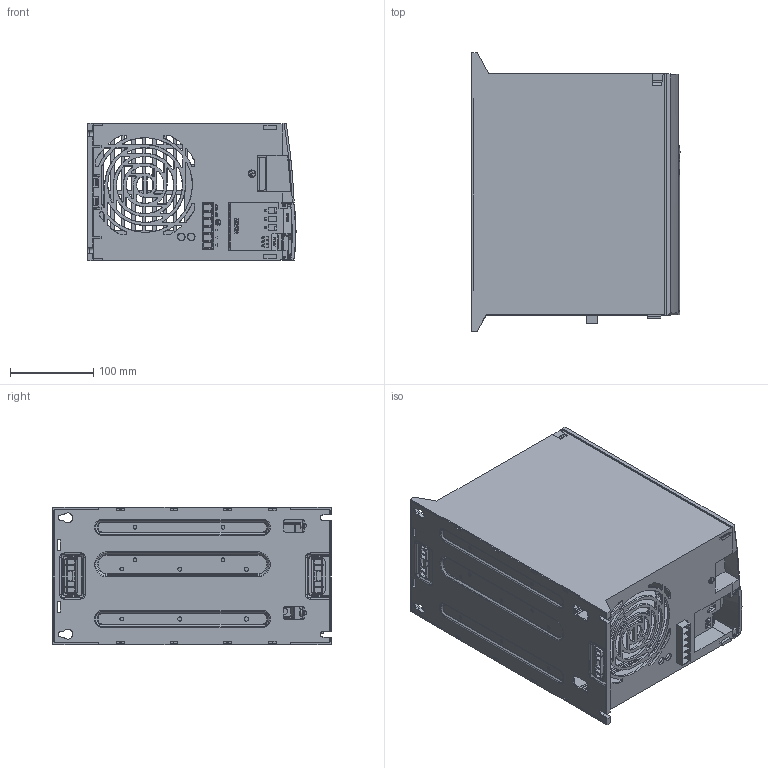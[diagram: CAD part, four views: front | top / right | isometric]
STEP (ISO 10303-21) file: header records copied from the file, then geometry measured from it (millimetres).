
FILE_DESCRIPTION (( 'STEP AP214' ), '1' );
FILE_NAME ('ﾏﾗﾂ1,2 (ﾌ5).STEP', '2024-01-25T14:52:44', ( '' ), ( '' ), 'SwSTEP 2.0', 'SolidWorks 2019', '' );
FILE_SCHEMA (( 'AUTOMOTIVE_DESIGN' ));
Length unit declared in the file: millimetre
Products named in the file (6): 132B3243-V2^ﾏﾗﾂ (ﾌ5); 譇踖樦; Êîðïóñ Ï×Â (Ì5); ïëàòà; ﾏﾗﾂ1,2 (ﾌ5); Êðûøêà Ï×Â (Ì5)
Assembly tree (5 placements, depth 2):
  ﾏﾗﾂ1,2 (ﾌ5)
    132B3243-V2^ﾏﾗﾂ (ﾌ5)
    Êîðïóñ Ï×Â (Ì5)
    Êðûøêà Ï×Â (Ì5)
    ïëàòà
    譇踖樦
Bounding box: 250.5 x 335 x 165 mm (x, y, z)
Volume: 814294.3 mm3; surface area: 778592.8 mm2
Topology: 265 solids, 268 shells, 7251 faces, 19279 edges, 12717 vertices
Faces by surface type: plane 5374, bspline 1236, cone 354, cylinder 236, torus 51
Full cylindrical faces by diameter (mm): 2 x3, 8.1 x1, 9 x1
Entity records: 285186 total; most frequent: CARTESIAN_POINT 70589, ORIENTED_EDGE 38534, DIRECTION 28348, EDGE_CURVE 19271, VECTOR 14656, LINE 14656, VERTEX_POINT 12717, EDGE_LOOP 7822
